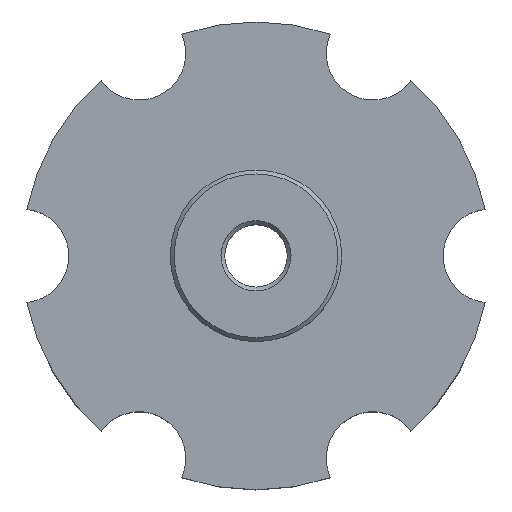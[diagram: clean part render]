
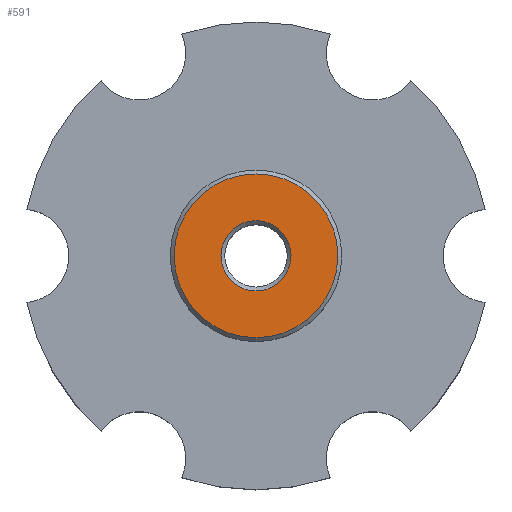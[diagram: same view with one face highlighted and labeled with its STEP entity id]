
A CAD part, top view. The second image highlights one B-rep face of the part: STEP entity #591.
In plain terms, the highlighted planar face has unit normal (0, 0, 1).
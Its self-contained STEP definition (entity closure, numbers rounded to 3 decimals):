
#112 = CONICAL_SURFACE('',#113,4.,0.785);
#113 = AXIS2_PLACEMENT_3D('',#114,#115,#116);
#114 = CARTESIAN_POINT('',(0.,0.,19.5));
#115 = DIRECTION('',(0.,0.,1.));
#116 = DIRECTION('',(-1.,0.,0.));
#185 = VERTEX_POINT('',#186);
#186 = CARTESIAN_POINT('',(-4.5,0.,20.));
#207 = EDGE_CURVE('',#185,#185,#208,.T.);
#208 = SURFACE_CURVE('',#209,(#214,#221),.PCURVE_S1.);
#209 = CIRCLE('',#210,4.5);
#210 = AXIS2_PLACEMENT_3D('',#211,#212,#213);
#211 = CARTESIAN_POINT('',(0.,0.,20.));
#212 = DIRECTION('',(-0.,0.,-1.));
#213 = DIRECTION('',(-1.,0.,0.));
#214 = PCURVE('',#112,#215);
#215 = DEFINITIONAL_REPRESENTATION('',(#216),#220);
#216 = LINE('',#217,#218);
#217 = CARTESIAN_POINT('',(-0.,0.5));
#218 = VECTOR('',#219,1.);
#219 = DIRECTION('',(-1.,0.));
#220 = ( GEOMETRIC_REPRESENTATION_CONTEXT(2) 
PARAMETRIC_REPRESENTATION_CONTEXT() REPRESENTATION_CONTEXT('2D SPACE',''
  ) );
#221 = PCURVE('',#222,#227);
#222 = PLANE('',#223);
#223 = AXIS2_PLACEMENT_3D('',#224,#225,#226);
#224 = CARTESIAN_POINT('',(0.,0.,20.)
  );
#225 = DIRECTION('',(0.,0.,1.));
#226 = DIRECTION('',(1.,0.,-0.));
#227 = DEFINITIONAL_REPRESENTATION('',(#228),#236);
#228 = ( BOUNDED_CURVE() B_SPLINE_CURVE(2,(#229,#230,#231,#232,#233,#234
,#235),.UNSPECIFIED.,.T.,.F.) B_SPLINE_CURVE_WITH_KNOTS((1,2,2,2,2,1),(
    -2.094,0.,2.094,4.189,6.283,
8.378),.UNSPECIFIED.) CURVE() GEOMETRIC_REPRESENTATION_ITEM() 
RATIONAL_B_SPLINE_CURVE((1.,0.5,1.,0.5,1.,0.5,1.)) REPRESENTATION_ITEM(
  '') );
#229 = CARTESIAN_POINT('',(-4.5,0.));
#230 = CARTESIAN_POINT('',(-4.5,7.794));
#231 = CARTESIAN_POINT('',(2.25,3.897));
#232 = CARTESIAN_POINT('',(9.,0.));
#233 = CARTESIAN_POINT('',(2.25,-3.897));
#234 = CARTESIAN_POINT('',(-4.5,-7.794));
#235 = CARTESIAN_POINT('',(-4.5,0.));
#236 = ( GEOMETRIC_REPRESENTATION_CONTEXT(2) 
PARAMETRIC_REPRESENTATION_CONTEXT() REPRESENTATION_CONTEXT('2D SPACE',''
  ) );
#591 = ADVANCED_FACE('',(#592,#595),#222,.T.);
#592 = FACE_BOUND('',#593,.T.);
#593 = EDGE_LOOP('',(#594));
#594 = ORIENTED_EDGE('',*,*,#207,.T.);
#595 = FACE_BOUND('',#596,.T.);
#596 = EDGE_LOOP('',(#597));
#597 = ORIENTED_EDGE('',*,*,#598,.T.);
#598 = EDGE_CURVE('',#599,#599,#601,.T.);
#599 = VERTEX_POINT('',#600);
#600 = CARTESIAN_POINT('',(10.5,0.,20.));
#601 = SURFACE_CURVE('',#602,(#607,#614),.PCURVE_S1.);
#602 = CIRCLE('',#603,10.5);
#603 = AXIS2_PLACEMENT_3D('',#604,#605,#606);
#604 = CARTESIAN_POINT('',(0.,0.,20.));
#605 = DIRECTION('',(0.,0.,1.));
#606 = DIRECTION('',(1.,0.,-0.));
#607 = PCURVE('',#222,#608);
#608 = DEFINITIONAL_REPRESENTATION('',(#609),#613);
#609 = CIRCLE('',#610,10.5);
#610 = AXIS2_PLACEMENT_2D('',#611,#612);
#611 = CARTESIAN_POINT('',(0.,0.));
#612 = DIRECTION('',(1.,0.));
#613 = ( GEOMETRIC_REPRESENTATION_CONTEXT(2) 
PARAMETRIC_REPRESENTATION_CONTEXT() REPRESENTATION_CONTEXT('2D SPACE',''
  ) );
#614 = PCURVE('',#615,#620);
#615 = CONICAL_SURFACE('',#616,11.,0.785);
#616 = AXIS2_PLACEMENT_3D('',#617,#618,#619);
#617 = CARTESIAN_POINT('',(0.,0.,19.5));
#618 = DIRECTION('',(-0.,-0.,-1.));
#619 = DIRECTION('',(1.,0.,0.));
#620 = DEFINITIONAL_REPRESENTATION('',(#621),#625);
#621 = LINE('',#622,#623);
#622 = CARTESIAN_POINT('',(-0.,-0.5));
#623 = VECTOR('',#624,1.);
#624 = DIRECTION('',(-1.,-0.));
#625 = ( GEOMETRIC_REPRESENTATION_CONTEXT(2) 
PARAMETRIC_REPRESENTATION_CONTEXT() REPRESENTATION_CONTEXT('2D SPACE',''
  ) );
